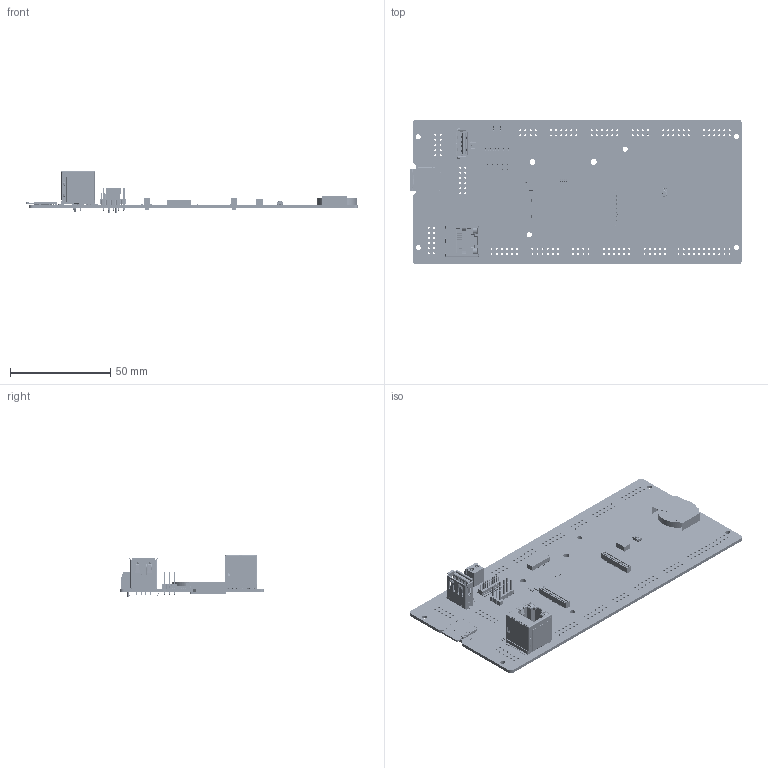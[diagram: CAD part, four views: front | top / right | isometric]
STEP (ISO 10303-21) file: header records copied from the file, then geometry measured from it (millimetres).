
FILE_DESCRIPTION(('Open CASCADE Model'),'2;1');
FILE_NAME('Open CASCADE Shape Model','2022-10-06T12:10:35',('Author'),( 'Open CASCADE'),'Open CASCADE STEP processor 7.5','Open CASCADE 7.5' ,'Unknown');
FILE_SCHEMA(('AUTOMOTIVE_DESIGN { 1 0 10303 214 1 1 1 1 }'));
Length unit declared in the file: millimetre
Products named in the file (82): PCB; Board; Open CASCADE STEP translator 7.5 5.1.1; J16; DF40C-80DP; J15; J12; 61300211121; 6130xx11121_PIN; J11; 61300311121; J8; MK125002GO_TerminalBlock_3_5mm_RGB13010237; U1; 5820418016; Open CASCADE STEP translator 6.8 18.1; Body; Open CASCADE STEP translator 6.8 18.2.1; Thermal_Shape; Pin_Shape; R23; RES-0402; R22; R21; R20; J3; 20594-3D(020)(B3-200630); USB1X04SDHOUSING; USB1X04SDCOVER; USB1X04SDSHELL; USB1X04SDTER; C4; CAP-0805; C3; CAP-0402; R19; R18; J7; MTJ-88AX1-FS-TSMT-P-L5-M398AC-WOT-KT; SW1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
Assembly tree (126 placements, depth 5):
  PCB
    Board
      Open CASCADE STEP translator 7.5 5.1.1
    J16
      DF40C-80DP
    J15
      DF40C-80DP
    J12
      61300211121  x4
        6130xx11121_PIN
        61300211121
    J11
      61300311121
        61300311121
        6130xx11121_PIN  x3
    J8
      MK125002GO_TerminalBlock_3_5mm_RGB13010237
    U1
      5820418016
        Open CASCADE STEP translator 6.8 18.1
        Body
          Open CASCADE STEP translator 6.8 18.2.1
        Thermal_Shape
        Pin_Shape  x20
    R23
      RES-0402
    R22
      RES-0402
    R21
      RES-0402
    R20
      RES-0402
    J3
      20594-3D(020)(B3-200630)
        USB1X04SDHOUSING
        USB1X04SDCOVER
        USB1X04SDSHELL
        USB1X04SDTER
    C4
      CAP-0805
    C3
      CAP-0402
    R19
      RES-0402
    R18
      RES-0402
    J7
      MTJ-88AX1-FS-TSMT-P-L5-M398AC-WOT-KT
    SW1
      6734819008
        Extruded
    R17
      RES-0402
    R16
      RES-0402
    R15
      RES-0402
    R14
      RES-0402
    R5
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Bounding box: 165.28 x 72.14 x 21.04 mm (x, y, z)
Volume: 24145.7 mm3; surface area: 38876.6 mm2
Topology: 127 solids, 133 shells, 11665 faces, 31762 edges, 20694 vertices
Faces by surface type: plane 8183, cylinder 3050, bspline 313, sphere 52, cone 36, torus 26, extrusion 4, revolution 1
Full cylindrical faces by diameter (mm): 0.375 x1, 0.45 x4, 0.6 x1, 0.65 x2, 0.8 x1, 0.95 x4, 1 x176, 1.1 x11, 1.5 x2, 2 x1, 2.05 x1, 2.3 x2, 2.54 x6, 3 x2
Entity records: 269751 total; most frequent: CARTESIAN_POINT 59344, ORIENTED_EDGE 41195, DIRECTION 36597, EDGE_CURVE 20601, VECTOR 15150, LINE 15146, VERTEX_POINT 13440, AXIS2_PLACEMENT_3D 10723
